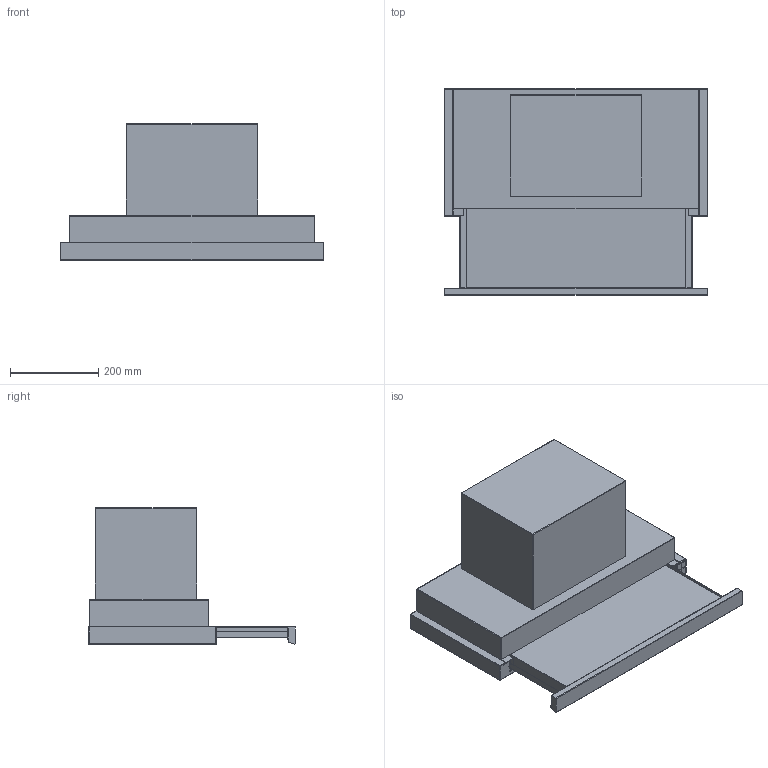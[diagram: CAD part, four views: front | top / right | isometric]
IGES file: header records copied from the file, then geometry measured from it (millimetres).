
Start section: SolidWorks IGES file using analytic representation for surfaces
Global section: file name: E:\3D za kuhinjaše\3D za kuhinjaše-Bolgarija\514461_BHP623E13X\514461_BHP623E13X\514461_BHP623E13X.IGS; native system: SolidWorks 2016; preprocessor: SolidWorks 2016; author: kristijan.lamesic; date: 170411.090202; units: millimetre
Bounding box: 598.52 x 468.9 x 309.83 mm (x, y, z)
Surface area: 1917069.9 mm2 (no closed solid volume)
Topology: 0 solids, 0 shells, 559 faces, 5173 edges, 5133 vertices
Faces by surface type: bspline 326, revolution 233
